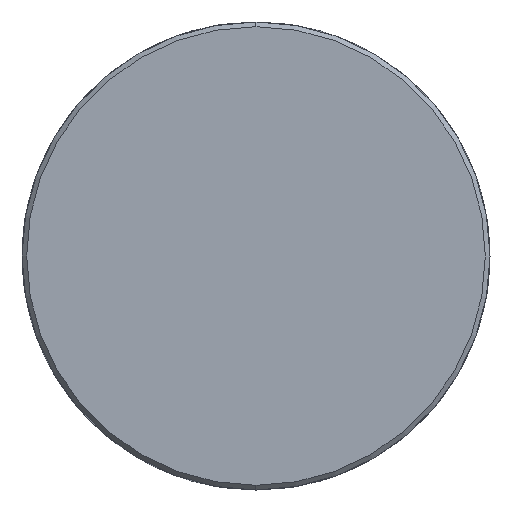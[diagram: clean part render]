
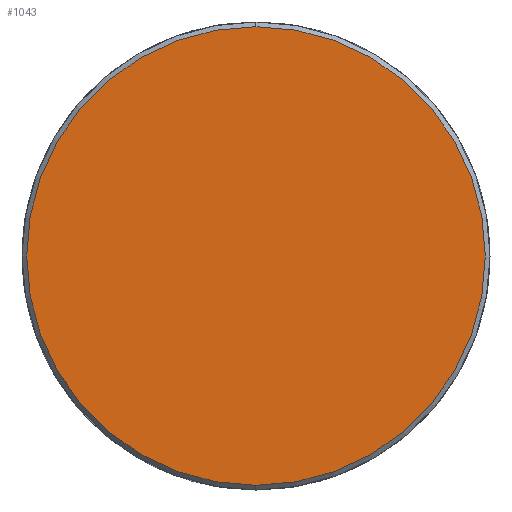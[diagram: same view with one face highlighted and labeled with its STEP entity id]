
A CAD part, left-side view. The second image highlights one B-rep face of the part: STEP entity #1043.
In plain terms, the highlighted planar face has unit normal (-1, 0, 0).
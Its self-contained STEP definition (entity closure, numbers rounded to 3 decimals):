
#76 = DIRECTION ( 'NONE',  ( 0., 0., 1. ) ) ;
#95 = DIRECTION ( 'NONE',  ( -1., 0., 0. ) ) ;
#100 = CARTESIAN_POINT ( 'NONE',  ( 0., 0., 0. ) ) ;
#168 = DIRECTION ( 'NONE',  ( 0., 0., -1. ) ) ;
#181 = DIRECTION ( 'NONE',  ( 1., 0., 0. ) ) ;
#194 = CARTESIAN_POINT ( 'NONE',  ( 0., 0., 0. ) ) ;
#229 = AXIS2_PLACEMENT_3D ( 'NONE', #5897, #2384, #6464 ) ;
#423 = ORIENTED_EDGE ( 'NONE', *, *, #1297, .F. ) ;
#504 = PLANE ( 'NONE',  #7164 ) ;
#585 = CIRCLE ( 'NONE', #5467, 24.5 ) ;
#874 = CARTESIAN_POINT ( 'NONE',  ( 0., 0., -24.5 ) ) ;
#1043 = ADVANCED_FACE ( 'NONE', ( #7218 ), #504, .T. ) ;
#1297 = EDGE_CURVE ( 'NONE', #7409, #4762, #585, .T. ) ;
#1355 = EDGE_CURVE ( 'NONE', #4762, #7409, #4211, .T. ) ;
#2384 = DIRECTION ( 'NONE',  ( 1., 0., 0. ) ) ;
#2705 = CARTESIAN_POINT ( 'NONE',  ( 0., 0., 24.5 ) ) ;
#4211 = CIRCLE ( 'NONE', #229, 24.5 ) ;
#4398 = ORIENTED_EDGE ( 'NONE', *, *, #1355, .F. ) ;
#4762 = VERTEX_POINT ( 'NONE', #2705 ) ;
#5467 = AXIS2_PLACEMENT_3D ( 'NONE', #194, #181, #168 ) ;
#5897 = CARTESIAN_POINT ( 'NONE',  ( 0., 0., 0. ) ) ;
#6464 = DIRECTION ( 'NONE',  ( 0., 0., -1. ) ) ;
#6956 = EDGE_LOOP ( 'NONE', ( #423, #4398 ) ) ;
#7164 = AXIS2_PLACEMENT_3D ( 'NONE', #100, #95, #76 ) ;
#7218 = FACE_OUTER_BOUND ( 'NONE', #6956, .T. ) ;
#7409 = VERTEX_POINT ( 'NONE', #874 ) ;
